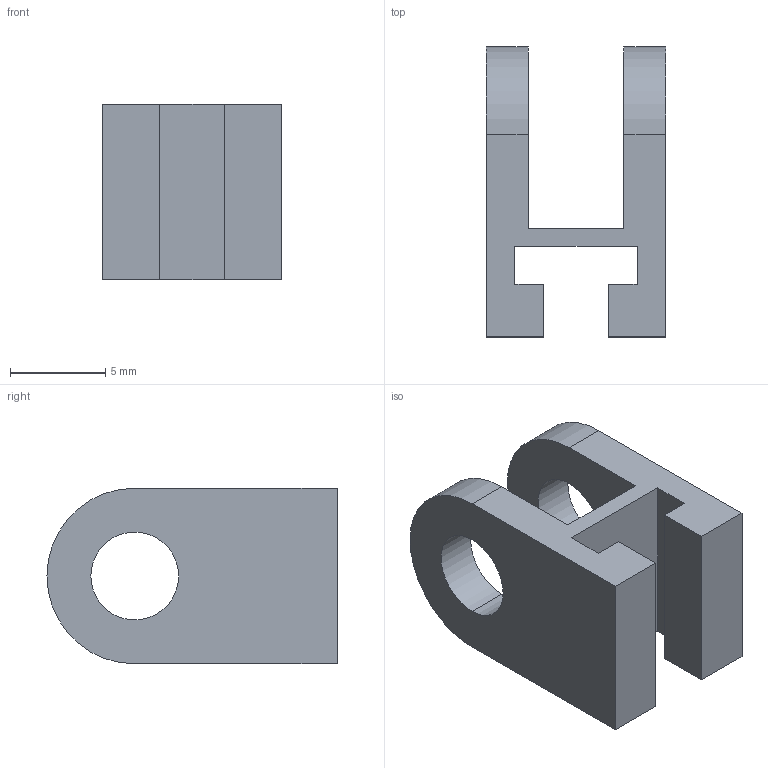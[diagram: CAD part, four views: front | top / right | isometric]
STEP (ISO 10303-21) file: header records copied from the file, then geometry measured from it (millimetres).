
FILE_DESCRIPTION (( 'STEP AP214' ), '1' );
FILE_NAME ('wagon_plus holes.STEP', '2025-06-15T00:38:55', ( '' ), ( '' ), 'SwSTEP 2.0', 'SolidWorks 2024', '' );
FILE_SCHEMA (( 'AUTOMOTIVE_DESIGN' ));
Length unit declared in the file: millimetre
Products named in the file (1): wagon_plus holes
Bounding box: 9.4 x 15.2 x 9.2 mm (x, y, z)
Volume: 560.6 mm3; surface area: 859.9 mm2
Topology: 1 solids, 1 shells, 22 faces, 60 edges, 40 vertices
Faces by surface type: plane 16, cylinder 6
Entity records: 727 total; most frequent: CARTESIAN_POINT 123, ORIENTED_EDGE 120, DIRECTION 118, EDGE_CURVE 60, VECTOR 48, LINE 48, VERTEX_POINT 40, AXIS2_PLACEMENT_3D 35
